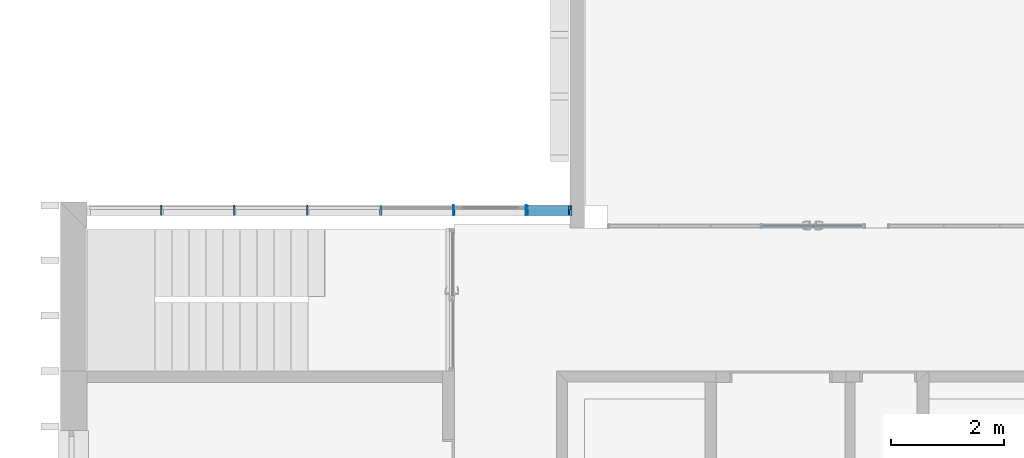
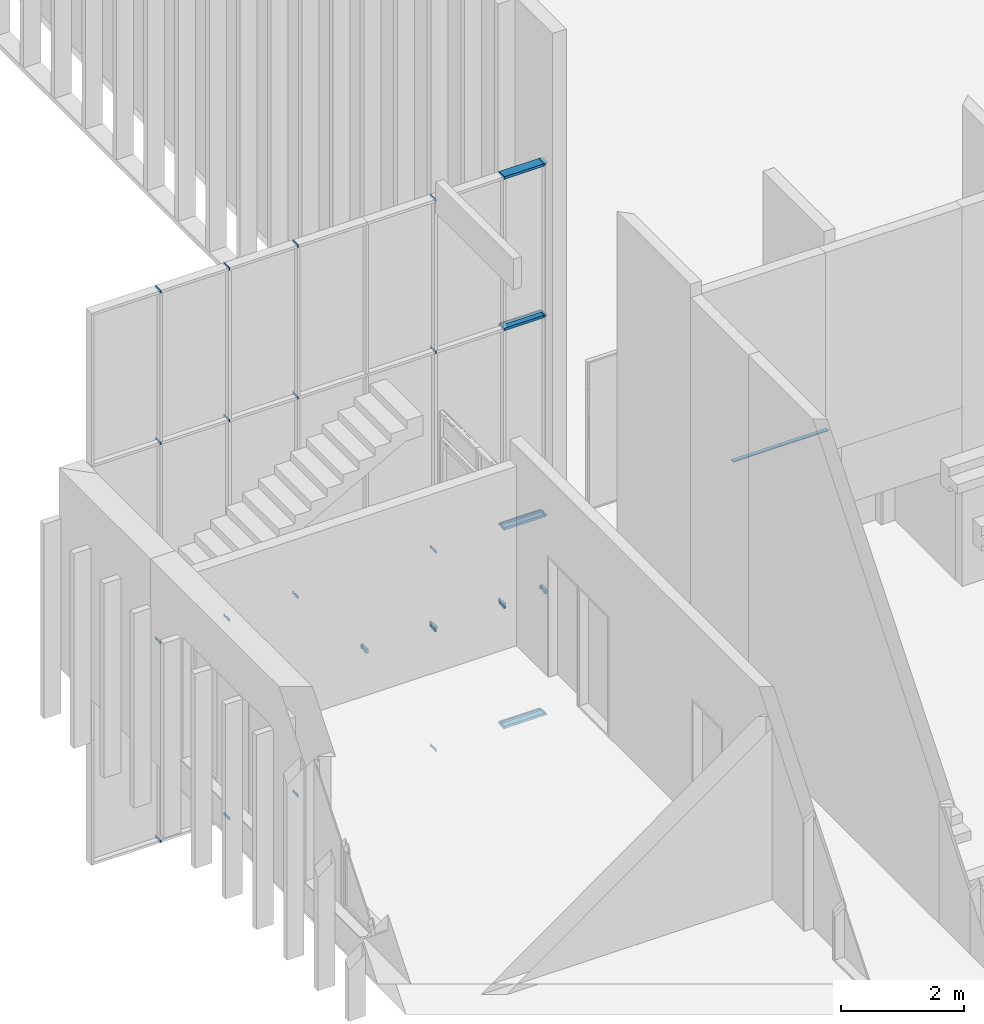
# One storey, part 8 of 62: 39 members, 2 elements without a shape of their own.
"""IFC2X3 building model written with IfcOpenShell, lengths in millimetres."""

from ifc_helpers import new_model, entity, si_unit, converted_unit, derived_unit, money_unit, direction, frame, origin_with_axes, place, context, subcontext, project, spatial, polyline, outline, extrude, clip, halfspace, faceted_brep, source, transform, mapped, material, type_object, element, aggregate, save


model = new_model("IFC2X3")

# Units and contexts
model_context = context("Model", 3, precision=0.01, world=origin_with_axes(), true_north=direction((0.0, 1.0)))
body_context = subcontext(model_context, "Body", "Model", "MODEL_VIEW")
ifc_project = project(units=[si_unit("LENGTHUNIT", "METRE", prefix="MILLI"), si_unit("AREAUNIT", "SQUARE_METRE"), si_unit("VOLUMEUNIT", "CUBIC_METRE"), converted_unit("PLANEANGLEUNIT", "DEGREE", entity("IfcPlaneAngleMeasure", 0.0174532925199), si_unit("PLANEANGLEUNIT", "RADIAN"), dimensions=[0, 0, 0, 0, 0, 0, 0]), si_unit("SOLIDANGLEUNIT", "STERADIAN"), money_unit("EUR"), converted_unit("TIMEUNIT", "Year", entity("IfcTimeMeasure", 31556926.0), si_unit("TIMEUNIT", "SECOND"), dimensions=[0, 0, 1, 0, 0, 0, 0]), si_unit("MASSUNIT", "GRAM", prefix="KILO"), si_unit("THERMODYNAMICTEMPERATUREUNIT", "DEGREE_CELSIUS"), si_unit("LUMINOUSINTENSITYUNIT", "LUMEN"), si_unit("ENERGYUNIT", "JOULE", prefix="MEGA"), derived_unit("THERMALCONDUCTANCEUNIT", [(si_unit("POWERUNIT", "WATT"), 1), (si_unit("LENGTHUNIT", "METRE"), -1), (si_unit("THERMODYNAMICTEMPERATUREUNIT", "KELVIN"), -1)]), derived_unit("SPECIFICHEATCAPACITYUNIT", [(si_unit("ENERGYUNIT", "JOULE"), 1), (si_unit("MASSUNIT", "GRAM", prefix="KILO"), -1), (si_unit("THERMODYNAMICTEMPERATUREUNIT", "KELVIN"), -1)]), derived_unit("MASSDENSITYUNIT", [(si_unit("MASSUNIT", "GRAM", prefix="KILO"), 1), (si_unit("VOLUMEUNIT", "CUBIC_METRE"), -1)])], contexts=[model_context])

# Site, building, storey
site_placement = place(None, origin_with_axes())
site = spatial("IfcSite", under=ifc_project, at=site_placement, Name="Puškini 31, Narva", CompositionType="ELEMENT")
building_placement = place(site_placement, origin_with_axes())
building = spatial("IfcBuilding", under=site, at=building_placement, Name="Narva Riigigümnaasium", CompositionType="ELEMENT")
storey_placement = place(building_placement, frame((0.0, 0.0, 660.0), z_axis=(0.0, 0.0, 1.0), x_axis=(1.0, 0.0, 0.0)))
storey = spatial("IfcBuildingStorey", under=building, at=storey_placement, Name="2.korrus +0.66", CompositionType="ELEMENT", Elevation=660.0)

# Curtain wall, members
curtain_wall_type = type_object("IfcCurtainWallType", Name="Curtain Wall Type", PredefinedType="NOTDEFINED")
curtain_wall_1_placement = place(storey_placement, frame((29287.8078111, 224154.987122, -3960.0), z_axis=(0.0, 0.0, 1.0), x_axis=(1.0, 0.0, 0.0)))
curtain_wall_1 = element("IfcCurtainWall", 1, at=curtain_wall_1_placement, inside=storey, type_object=curtain_wall_type, Name="G-KLF-05")
ifc_material = material(Name="ET-04_Alumiinium")
member_type_1 = type_object("IfcMemberType", Name="Boundary Frame 50 x 176", PredefinedType="MULLION")
shared_shape = source(origin_with_axes(), body_context, "Body", "Brep", [
    faceted_brep([(-10.0, -29.0, 69.2145805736), (-25.0, -29.0, 69.2145805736), (-25.0, -130.0, 69.2145805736), (25.0, -130.0, 69.2145805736), (25.0, -29.0, 69.2145805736), (10.0, -29.0, 69.2145805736), (10.0, 29.0, 69.2145805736), (25.0, 29.0, 69.2145805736), (25.0, 46.0, 69.2145805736), (-25.0, 46.0, 69.2145805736), (-25.0, 29.0, 69.2145805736), (-10.0, 29.0, 69.2145805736), (-10.0, -29.0, 20.0), (-25.0, -29.0, 50.0), (-25.0, -130.0, 50.0), (0.0, -130.0, 0.0), (25.0, -130.0, 50.0000005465), (25.0, -29.0, 50.0000005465), (10.0, -29.0, 20.0000002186), (10.0, 29.0, 20.0000002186), (25.0, 29.0, 50.0000005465), (25.0, 46.0, 50.0000005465), (0.0, 46.0, 0.0), (-25.0, 46.0, 50.0), (-25.0, 29.0, 50.0), (-10.0, 29.0, 20.0)], [[[0, 1, 2, 3, 4, 5, 6, 7, 8, 9, 10, 11]], [[1, 0, 12, 13]], [[1, 13, 14, 2]], [[14, 15, 16, 3, 2]], [[4, 3, 16, 17]], [[4, 17, 18, 5]], [[5, 18, 19, 6]], [[7, 6, 19, 20]], [[20, 21, 8, 7]], [[21, 22, 23, 9, 8]], [[24, 10, 9, 23]], [[11, 10, 24, 25]], [[0, 11, 25, 12]], [[25, 24, 23, 22, 15, 14, 13, 12]], [[21, 20, 19, 18, 17, 16, 15, 22]]]),
])
member_1_placement = place(curtain_wall_1_placement, frame((7692.19233275, 0.0, 7920.0), z_axis=(-1.0, 0.0, 0.0), x_axis=(0.0, 0.0, 1.0)))
member_1 = element("IfcMember", 2, at=member_1_placement, type_object=member_type_1, material=ifc_material, Name="klaasfassaadi raam", ObjectType="MULLION", context=body_context, shape_type="MappedRepresentation", body=[
    mapped(shared_shape, transform((0.0, 0.0, 0.0))),
])
member_2_placement = place(curtain_wall_1_placement, frame((7692.19233275, 0.0, 3960.0), z_axis=(-1.0, 0.0, 0.0), x_axis=(0.0, 0.0, 1.0)))
member_2 = element("IfcMember", 3, at=member_2_placement, type_object=member_type_1, material=ifc_material, Name="klaasfassaadi raam", ObjectType="MULLION", context=body_context, shape_type="MappedRepresentation", body=[
    mapped(shared_shape, transform((0.0, 0.0, 0.0))),
])
member_type_2 = type_object("IfcMemberType", Name="Mullion Frame 50 x 176", PredefinedType="MULLION")
member_3_placement = place(curtain_wall_1_placement, frame((6886.14537475, 0.0, 2400.00000127), z_axis=(1.91553442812e-09, 0.0, 1.0), x_axis=(1.0, 0.0, -1.91553442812e-09)))
member_3 = element("IfcMember", 4, at=member_3_placement, type_object=member_type_2, material=ifc_material, Name="klaasfassaadi raam", ObjectType="MULLION", context=body_context, shape_type="SweptSolid", body=[
    extrude(outline(polyline([(-10.0, -29.0), (-25.0, -29.0), (-25.0, -130.0), (25.0, -130.0), (25.0, -29.0), (10.0, -29.0), (10.0, 29.0), (25.0, 29.0), (25.0, 46.0), (-25.0, 46.0), (-25.0, 29.0), (-10.0, 29.0), (-10.0, -29.0)])), frame((0.0, 0.0, 24.9999999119), z_axis=(0.0, 0.0, 1.0), x_axis=(1.0, 0.0, 1.91553442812e-09)), (0.0, 0.0, 1.0), 54.9999991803),
])
member_4_placement = place(curtain_wall_1_placement, frame((4309.84100197, 0.0, 2400.00236939), z_axis=(0.0, 0.0, 1.0), x_axis=(1.0, 0.0, 0.0)))
member_4 = element("IfcMember", 5, at=member_4_placement, type_object=member_type_2, material=ifc_material, Name="klaasfassaadi raam", ObjectType="MULLION", context=body_context, shape_type="SweptSolid", body=[
    extrude(outline(polyline([(-10.0, -29.0), (-25.0, -29.0), (-25.0, -130.0), (25.0, -130.0), (25.0, -29.0), (10.0, -29.0), (10.0, 29.0), (25.0, 29.0), (25.0, 46.0), (-25.0, 46.0), (-25.0, 29.0), (-10.0, 29.0), (-10.0, -29.0)])), origin_with_axes(), (0.0, 0.0, 1.0), 79.9976306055),
])
member_5_placement = place(curtain_wall_1_placement, frame((5597.9776131, 0.0, 2400.00000127), z_axis=(0.0, 0.0, 1.0), x_axis=(1.0, 0.0, 0.0)))
member_5 = element("IfcMember", 6, at=member_5_placement, type_object=member_type_2, material=ifc_material, Name="klaasfassaadi raam", ObjectType="MULLION", context=body_context, shape_type="SweptSolid", body=[
    extrude(outline(polyline([(-10.0, -29.0), (-25.0, -29.0), (-25.0, -130.0), (25.0, -130.0), (25.0, -29.0), (10.0, -29.0), (10.0, 29.0), (25.0, 29.0), (25.0, 46.0), (-25.0, 46.0), (-25.0, 29.0), (-10.0, 29.0), (-10.0, -29.0)])), frame((0.0, 0.0, 24.9999999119), z_axis=(0.0, 0.0, 1.0), x_axis=(1.0, 0.0, 0.0)), (0.0, 0.0, 1.0), 54.9999991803),
])
member_6_placement = place(curtain_wall_1_placement, frame((7622.97775217, 0.0, 10950.0000373), z_axis=(1.0, 0.0, 0.0), x_axis=(0.0, 0.0, -1.0)))
member_6 = element("IfcMember", 7, at=member_6_placement, type_object=member_type_1, material=ifc_material, Name="klaasfassaadi raam", ObjectType="MULLION", context=body_context, shape_type="Clipping", body=[
    clip(extrude(outline(polyline([(29.0, 35.0), (-29.0, 35.0), (-29.0, 50.0), (-46.0, 50.0), (-46.0, 0.0), (130.0, 0.0), (130.0, 50.0), (29.0, 50.0), (29.0, 35.0)])), frame((0.0, 0.0, 0.0), z_axis=(0.0, 0.0, 1.0), x_axis=(0.0, -1.0, 0.0)), (0.0, 0.0, 1.0), 69.2145143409), halfspace(frame((34.6072571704, 0.0, 34.6072579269), z_axis=(-0.707106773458, 0.0, -0.707106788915), x_axis=(0.0, 1.0, 0.0)), True)),
])
member_7_placement = place(curtain_wall_1_placement, frame((6886.14537815, 0.0, 10950.0000373), z_axis=(1.0, 0.0, 0.0), x_axis=(0.0, 0.0, -1.0)))
member_7 = element("IfcMember", 8, at=member_7_placement, type_object=member_type_1, material=ifc_material, Name="klaasfassaadi raam", ObjectType="MULLION", context=body_context, shape_type="SweptSolid", body=[
    extrude(outline(polyline([(29.0, 35.0), (-29.0, 35.0), (-29.0, 50.0), (-46.0, 50.0), (-46.0, 0.0), (130.0, 0.0), (130.0, 50.0), (29.0, 50.0), (29.0, 35.0)])), frame((0.0, 0.0, 0.0), z_axis=(0.0, 0.0, 1.0), x_axis=(0.0, -1.0, 0.0)), (0.0, 0.0, 1.0), 736.832374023),
])
member_8_placement = place(curtain_wall_1_placement, frame((6872.98587503, 0.0, 10950.0000373), z_axis=(1.0, 0.0, 0.0), x_axis=(0.0, 0.0, -1.0)))
member_8 = element("IfcMember", 9, at=member_8_placement, type_object=member_type_1, material=ifc_material, Name="klaasfassaadi raam", ObjectType="MULLION", context=body_context, shape_type="SweptSolid", body=[
    extrude(outline(polyline([(29.0, 35.0), (-29.0, 35.0), (-29.0, 50.0), (-46.0, 50.0), (-46.0, 0.0), (130.0, 0.0), (130.0, 50.0), (29.0, 50.0), (29.0, 35.0)])), frame((0.0, 0.0, 0.0), z_axis=(0.0, 0.0, 1.0), x_axis=(0.0, -1.0, 0.0)), (0.0, 0.0, 1.0), 13.1595031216),
])
member_9_placement = place(curtain_wall_1_placement, frame((5592.97775217, 0.0, 10950.0000373), z_axis=(1.0, 0.0, 0.0), x_axis=(0.0, 0.0, -1.0)))
member_9 = element("IfcMember", 10, at=member_9_placement, type_object=member_type_1, material=ifc_material, Name="klaasfassaadi raam", ObjectType="MULLION", context=body_context, shape_type="SweptSolid", body=[
    extrude(outline(polyline([(29.0, 35.0), (-29.0, 35.0), (-29.0, 50.0), (-46.0, 50.0), (-46.0, 0.0), (130.0, 0.0), (130.0, 50.0), (29.0, 50.0), (29.0, 35.0)])), frame((0.0, 0.0, 0.0), z_axis=(0.0, 0.0, 1.0), x_axis=(0.0, -1.0, 0.0)), (0.0, 0.0, 1.0), 4.99985342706),
])
member_10_placement = place(curtain_wall_1_placement, frame((3002.68449211, 0.0, 10950.0000373), z_axis=(1.0, 0.0, 0.0), x_axis=(0.0, 0.0, -1.0)))
member_10 = element("IfcMember", 11, at=member_10_placement, type_object=member_type_1, material=ifc_material, Name="klaasfassaadi raam", ObjectType="MULLION", context=body_context, shape_type="SweptSolid", body=[
    extrude(outline(polyline([(29.0, 35.0), (-29.0, 35.0), (-29.0, 50.0), (-46.0, 50.0), (-46.0, 0.0), (130.0, 0.0), (130.0, 50.0), (29.0, 50.0), (29.0, 35.0)])), frame((0.0, 0.0, 0.0), z_axis=(0.0, 0.0, 1.0), x_axis=(0.0, -1.0, 0.0)), (0.0, 0.0, 1.0), 19.004367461),
])
member_11_placement = place(curtain_wall_1_placement, frame((1712.53380065, 0.0, 10950.0000373), z_axis=(1.0, 0.0, 0.0), x_axis=(0.0, 0.0, -1.0)))
member_11 = element("IfcMember", 12, at=member_11_placement, type_object=member_type_1, material=ifc_material, Name="klaasfassaadi raam", ObjectType="MULLION", context=body_context, shape_type="SweptSolid", body=[
    extrude(outline(polyline([(29.0, 35.0), (-29.0, 35.0), (-29.0, 50.0), (-46.0, 50.0), (-46.0, 0.0), (130.0, 0.0), (130.0, 50.0), (29.0, 50.0), (29.0, 35.0)])), frame((0.0, 0.0, 0.0), z_axis=(0.0, 0.0, 1.0), x_axis=(0.0, -1.0, 0.0)), (0.0, 0.0, 1.0), 21.0028431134),
])
member_12_placement = place(curtain_wall_1_placement, frame((422.38310919, 0.0, 10950.0000373), z_axis=(1.0, 0.0, 0.0), x_axis=(0.0, 0.0, -1.0)))
member_12 = element("IfcMember", 13, at=member_12_placement, type_object=member_type_1, material=ifc_material, Name="klaasfassaadi raam", ObjectType="MULLION", context=body_context, shape_type="SweptSolid", body=[
    extrude(outline(polyline([(29.0, 35.0), (-29.0, 35.0), (-29.0, 50.0), (-46.0, 50.0), (-46.0, 0.0), (130.0, 0.0), (130.0, 50.0), (29.0, 50.0), (29.0, 35.0)])), frame((0.0, 0.0, 0.0), z_axis=(0.0, 0.0, 1.0), x_axis=(0.0, -1.0, 0.0)), (0.0, 0.0, 1.0), 23.0014167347),
])
member_13_placement = place(curtain_wall_1_placement, frame((5597.99317112, 0.0, 0.0), z_axis=(-1.0, 0.0, 0.0), x_axis=(0.0, 0.0, 1.0)))
member_13 = element("IfcMember", 14, at=member_13_placement, type_object=member_type_1, material=ifc_material, Name="klaasfassaadi raam", ObjectType="MULLION", context=body_context, shape_type="SweptSolid", body=[
    extrude(outline(polyline([(-29.0, -35.0), (29.0, -35.0), (29.0, -50.0), (46.0, -50.0), (46.0, 0.0), (-130.0, 0.0), (-130.0, -50.0), (-29.0, -50.0), (-29.0, -35.0)])), frame((0.0, 0.0, 0.0), z_axis=(0.0, 0.0, 1.0), x_axis=(0.0, 1.0, 0.0)), (0.0, 0.0, 1.0), 5.01541894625),
])
member_14_placement = place(curtain_wall_1_placement, frame((3021.68886067, 0.0, 0.0), z_axis=(-1.0, 0.0, 0.0), x_axis=(0.0, 0.0, 1.0)))
member_14 = element("IfcMember", 15, at=member_14_placement, type_object=member_type_1, material=ifc_material, Name="klaasfassaadi raam", ObjectType="MULLION", context=body_context, shape_type="SweptSolid", body=[
    extrude(outline(polyline([(-29.0, -35.0), (29.0, -35.0), (29.0, -50.0), (46.0, -50.0), (46.0, 0.0), (-130.0, 0.0), (-130.0, -50.0), (-29.0, -50.0), (-29.0, -35.0)])), frame((0.0, 0.0, 0.0), z_axis=(0.0, 0.0, 1.0), x_axis=(0.0, 1.0, 0.0)), (0.0, 0.0, 1.0), 19.004367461),
])
member_15_placement = place(curtain_wall_1_placement, frame((1733.53668043, 0.0, 0.0), z_axis=(-1.0, 0.0, 0.0), x_axis=(0.0, 0.0, 1.0)))
member_15 = element("IfcMember", 16, at=member_15_placement, type_object=member_type_1, material=ifc_material, Name="klaasfassaadi raam", ObjectType="MULLION", context=body_context, shape_type="SweptSolid", body=[
    extrude(outline(polyline([(-29.0, -35.0), (29.0, -35.0), (29.0, -50.0), (46.0, -50.0), (46.0, 0.0), (-130.0, 0.0), (-130.0, -50.0), (-29.0, -50.0), (-29.0, -35.0)])), frame((0.0, 0.0, 0.0), z_axis=(0.0, 0.0, 1.0), x_axis=(0.0, 1.0, 0.0)), (0.0, 0.0, 1.0), 21.0028431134),
])
member_16_placement = place(curtain_wall_1_placement, frame((445.384525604, 0.0, 0.0), z_axis=(-1.0, 0.0, 0.0), x_axis=(0.0, 0.0, 1.0)))
member_16 = element("IfcMember", 17, at=member_16_placement, type_object=member_type_1, material=ifc_material, Name="klaasfassaadi raam", ObjectType="MULLION", context=body_context, shape_type="SweptSolid", body=[
    extrude(outline(polyline([(-29.0, -35.0), (29.0, -35.0), (29.0, -50.0), (46.0, -50.0), (46.0, 0.0), (-130.0, 0.0), (-130.0, -50.0), (-29.0, -50.0), (-29.0, -35.0)])), frame((0.0, 0.0, 0.0), z_axis=(0.0, 0.0, 1.0), x_axis=(0.0, 1.0, 0.0)), (0.0, 0.0, 1.0), 23.0014167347),
])
member_17_placement = place(curtain_wall_1_placement, frame((7692.19233275, 0.0, 0.0), z_axis=(-1.0, 0.0, 0.0), x_axis=(0.0, 0.0, 1.0)))
member_17 = element("IfcMember", 18, at=member_17_placement, type_object=member_type_1, material=ifc_material, Name="klaasfassaadi raam", ObjectType="MULLION", context=body_context, shape_type="Clipping", body=[
    clip(extrude(outline(polyline([(-29.0, -35.0), (29.0, -35.0), (29.0, -50.0), (46.0, -50.0), (46.0, 0.0), (-130.0, 0.0), (-130.0, -50.0), (-29.0, -50.0), (-29.0, -35.0)])), frame((0.0, 0.0, 0.0), z_axis=(0.0, 0.0, 1.0), x_axis=(0.0, 1.0, 0.0)), (0.0, 0.0, 1.0), 69.2145805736), halfspace(frame((0.0, 0.0, 0.0), z_axis=(-0.707106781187, 0.0, 0.707106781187), x_axis=(0.0, -1.0, 0.0)), True)),
])
member_18_placement = place(curtain_wall_1_placement, frame((5597.9776056, 0.0, 7920.0), z_axis=(-1.0, 0.0, 0.0), x_axis=(0.0, 0.0, 1.0)))
member_18 = element("IfcMember", 19, at=member_18_placement, type_object=member_type_1, material=ifc_material, Name="klaasfassaadi raam", ObjectType="MULLION", context=body_context, shape_type="SweptSolid", body=[
    extrude(outline(polyline([(-29.0, 10.0), (-29.0, 25.0), (-130.0, 25.0), (-130.0, -25.0), (-29.0, -25.0), (-29.0, -10.0), (29.0, -10.0), (29.0, -25.0), (46.0, -25.0), (46.0, 25.0), (29.0, 25.0), (29.0, 10.0), (-29.0, 10.0)])), frame((0.0, 0.0, 0.0), z_axis=(0.0, 0.0, 1.0), x_axis=(0.0, 1.0, 0.0)), (0.0, 0.0, 1.0), 4.99985342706),
])
member_19_placement = place(curtain_wall_1_placement, frame((5597.97761203, 0.0, 3960.0), z_axis=(-1.0, 0.0, 0.0), x_axis=(0.0, 0.0, 1.0)))
member_19 = element("IfcMember", 20, at=member_19_placement, type_object=member_type_1, material=ifc_material, Name="klaasfassaadi raam", ObjectType="MULLION", context=body_context, shape_type="SweptSolid", body=[
    extrude(outline(polyline([(-29.0, 10.0), (-29.0, 25.0), (-130.0, 25.0), (-130.0, -25.0), (-29.0, -25.0), (-29.0, -10.0), (29.0, -10.0), (29.0, -25.0), (46.0, -25.0), (46.0, 25.0), (29.0, 25.0), (29.0, 10.0), (-29.0, 10.0)])), frame((0.0, 0.0, 0.0), z_axis=(0.0, 0.0, 1.0), x_axis=(0.0, 1.0, 0.0)), (0.0, 0.0, 1.0), 4.99985342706),
])
member_20_placement = place(curtain_wall_1_placement, frame((3021.68886067, 0.0, 3960.0), z_axis=(-1.0, 0.0, 0.0), x_axis=(0.0, 0.0, 1.0)))
member_20 = element("IfcMember", 21, at=member_20_placement, type_object=member_type_1, material=ifc_material, Name="klaasfassaadi raam", ObjectType="MULLION", context=body_context, shape_type="SweptSolid", body=[
    extrude(outline(polyline([(-29.0, 10.0), (-29.0, 25.0), (-130.0, 25.0), (-130.0, -25.0), (-29.0, -25.0), (-29.0, -10.0), (29.0, -10.0), (29.0, -25.0), (46.0, -25.0), (46.0, 25.0), (29.0, 25.0), (29.0, 10.0), (-29.0, 10.0)])), frame((0.0, 0.0, 0.0), z_axis=(0.0, 0.0, 1.0), x_axis=(0.0, 1.0, 0.0)), (0.0, 0.0, 1.0), 19.0043685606),
])
member_21_placement = place(curtain_wall_1_placement, frame((1733.53668043, 0.0, 3960.0), z_axis=(-1.0, 0.0, 0.0), x_axis=(0.0, 0.0, 1.0)))
member_21 = element("IfcMember", 22, at=member_21_placement, type_object=member_type_1, material=ifc_material, Name="klaasfassaadi raam", ObjectType="MULLION", context=body_context, shape_type="SweptSolid", body=[
    extrude(outline(polyline([(-29.0, 10.0), (-29.0, 25.0), (-130.0, 25.0), (-130.0, -25.0), (-29.0, -25.0), (-29.0, -10.0), (29.0, -10.0), (29.0, -25.0), (46.0, -25.0), (46.0, 25.0), (29.0, 25.0), (29.0, 10.0), (-29.0, 10.0)])), frame((0.0, 0.0, 0.0), z_axis=(0.0, 0.0, 1.0), x_axis=(0.0, 1.0, 0.0)), (0.0, 0.0, 1.0), 21.0028797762),
])
member_22_placement = place(curtain_wall_1_placement, frame((445.384525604, 0.0, 3960.0), z_axis=(-1.0, 0.0, 0.0), x_axis=(0.0, 0.0, 1.0)))
member_22 = element("IfcMember", 23, at=member_22_placement, type_object=member_type_1, material=ifc_material, Name="klaasfassaadi raam", ObjectType="MULLION", context=body_context, shape_type="SweptSolid", body=[
    extrude(outline(polyline([(-29.0, 10.0), (-29.0, 25.0), (-130.0, 25.0), (-130.0, -25.0), (-29.0, -25.0), (-29.0, -10.0), (29.0, -10.0), (29.0, -25.0), (46.0, -25.0), (46.0, 25.0), (29.0, 25.0), (29.0, 10.0), (-29.0, 10.0)])), frame((0.0, 0.0, 0.0), z_axis=(0.0, 0.0, 1.0), x_axis=(0.0, 1.0, 0.0)), (0.0, 0.0, 1.0), 23.0014164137),
])
member_23_placement = place(curtain_wall_1_placement, frame((445.384489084, 0.0, 7920.0), z_axis=(-1.0, 0.0, 0.0), x_axis=(0.0, 0.0, 1.0)))
member_23 = element("IfcMember", 24, at=member_23_placement, type_object=member_type_1, material=ifc_material, Name="klaasfassaadi raam", ObjectType="MULLION", context=body_context, shape_type="SweptSolid", body=[
    extrude(outline(polyline([(-29.0, 10.0), (-29.0, 25.0), (-130.0, 25.0), (-130.0, -25.0), (-29.0, -25.0), (-29.0, -10.0), (29.0, -10.0), (29.0, -25.0), (46.0, -25.0), (46.0, 25.0), (29.0, 25.0), (29.0, 10.0), (-29.0, 10.0)])), frame((0.0, 0.0, 0.0), z_axis=(0.0, 0.0, 1.0), x_axis=(0.0, 1.0, 0.0)), (0.0, 0.0, 1.0), 23.0014164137),
])
member_24_placement = place(curtain_wall_1_placement, frame((1733.53667543, 0.0, 7920.0), z_axis=(-1.0, 0.0, 0.0), x_axis=(0.0, 0.0, 1.0)))
member_24 = element("IfcMember", 25, at=member_24_placement, type_object=member_type_1, material=ifc_material, Name="klaasfassaadi raam", ObjectType="MULLION", context=body_context, shape_type="SweptSolid", body=[
    extrude(outline(polyline([(-29.0, 10.0), (-29.0, 25.0), (-130.0, 25.0), (-130.0, -25.0), (-29.0, -25.0), (-29.0, -10.0), (29.0, -10.0), (29.0, -25.0), (46.0, -25.0), (46.0, 25.0), (29.0, 25.0), (29.0, 10.0), (-29.0, 10.0)])), frame((0.0, 0.0, 0.0), z_axis=(0.0, 0.0, 1.0), x_axis=(0.0, 1.0, 0.0)), (0.0, 0.0, 1.0), 21.0028797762),
])
member_25_placement = place(curtain_wall_1_placement, frame((3021.68885957, 0.0, 7920.0), z_axis=(-1.0, 0.0, 0.0), x_axis=(0.0, 0.0, 1.0)))
member_25 = element("IfcMember", 26, at=member_25_placement, type_object=member_type_1, material=ifc_material, Name="klaasfassaadi raam", ObjectType="MULLION", context=body_context, shape_type="SweptSolid", body=[
    extrude(outline(polyline([(-29.0, 10.0), (-29.0, 25.0), (-130.0, 25.0), (-130.0, -25.0), (-29.0, -25.0), (-29.0, -10.0), (29.0, -10.0), (29.0, -25.0), (46.0, -25.0), (46.0, 25.0), (29.0, 25.0), (29.0, 10.0), (-29.0, 10.0)])), frame((0.0, 0.0, 0.0), z_axis=(0.0, 0.0, 1.0), x_axis=(0.0, 1.0, 0.0)), (0.0, 0.0, 1.0), 19.0043685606),
])
member_26_placement = place(curtain_wall_1_placement, frame((6886.14537015, 0.0, 0.0), z_axis=(-1.0, 0.0, 0.0), x_axis=(0.0, 0.0, 1.0)))
member_26 = element("IfcMember", 27, at=member_26_placement, type_object=member_type_1, material=ifc_material, Name="klaasfassaadi raam", ObjectType="MULLION", context=body_context, shape_type="SweptSolid", body=[
    extrude(outline(polyline([(-29.0, -35.0), (29.0, -35.0), (29.0, -50.0), (46.0, -50.0), (46.0, 0.0), (-130.0, 0.0), (-130.0, -50.0), (-29.0, -50.0), (-29.0, -35.0)])), frame((0.0, 0.0, 0.0), z_axis=(0.0, 0.0, 1.0), x_axis=(0.0, 1.0, 0.0)), (0.0, 0.0, 1.0), 13.1595031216),
])
member_27_placement = place(curtain_wall_1_placement, frame((6886.14537815, 0.0, 7920.0), z_axis=(-1.0, 0.0, 0.0), x_axis=(0.0, 0.0, 1.0)))
member_27 = element("IfcMember", 28, at=member_27_placement, type_object=member_type_1, material=ifc_material, Name="klaasfassaadi raam", ObjectType="MULLION", context=body_context, shape_type="SweptSolid", body=[
    extrude(outline(polyline([(-29.0, 10.0), (-29.0, 25.0), (-130.0, 25.0), (-130.0, -25.0), (-29.0, -25.0), (-29.0, -10.0), (29.0, -10.0), (29.0, -25.0), (46.0, -25.0), (46.0, 25.0), (29.0, 25.0), (29.0, 10.0), (-29.0, 10.0)])), frame((0.0, 0.0, 0.0), z_axis=(0.0, 0.0, 1.0), x_axis=(0.0, 1.0, 0.0)), (0.0, 0.0, 1.0), 13.1595031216),
])
member_28_placement = place(curtain_wall_1_placement, frame((5597.9776131, 0.0, 2400.00000127), z_axis=(-1.0, 0.0, 0.0), x_axis=(0.0, 0.0, 1.0)))
member_28 = element("IfcMember", 29, at=member_28_placement, type_object=member_type_1, material=ifc_material, Name="klaasfassaadi raam", ObjectType="MULLION", context=body_context, shape_type="SweptSolid", body=[
    extrude(outline(polyline([(-29.0, 10.0), (-29.0, 25.0), (-130.0, 25.0), (-130.0, -25.0), (-29.0, -25.0), (-29.0, -10.0), (29.0, -10.0), (29.0, -25.0), (46.0, -25.0), (46.0, 25.0), (29.0, 25.0), (29.0, 10.0), (-29.0, 10.0)])), frame((0.0, 0.0, 0.0), z_axis=(0.0, 0.0, 1.0), x_axis=(0.0, 1.0, 0.0)), (0.0, 0.0, 1.0), 4.99985342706),
])
member_29_placement = place(curtain_wall_1_placement, frame((7622.97775217, 0.0, 7920.0), z_axis=(-1.0, 0.0, 0.0), x_axis=(0.0, 0.0, 1.0)))
member_29 = element("IfcMember", 30, at=member_29_placement, type_object=member_type_1, material=ifc_material, Name="klaasfassaadi raam", ObjectType="MULLION", context=body_context, shape_type="SweptSolid", body=[
    extrude(outline(polyline([(-29.0, 10.0), (-29.0, 25.0), (-130.0, 25.0), (-130.0, -25.0), (-29.0, -25.0), (-29.0, -10.0), (29.0, -10.0), (29.0, -25.0), (46.0, -25.0), (46.0, 25.0), (29.0, 25.0), (29.0, 10.0), (-29.0, 10.0)])), frame((0.0, 0.0, 0.0), z_axis=(0.0, 0.0, 1.0), x_axis=(0.0, 1.0, 0.0)), (0.0, 0.0, 1.0), 736.832374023),
])
member_30_placement = place(curtain_wall_1_placement, frame((6886.14535642, 0.0, 3960.0), z_axis=(-1.0, 0.0, 0.0), x_axis=(0.0, 0.0, 1.0)))
member_30 = element("IfcMember", 31, at=member_30_placement, type_object=member_type_1, material=ifc_material, Name="klaasfassaadi raam", ObjectType="MULLION", context=body_context, shape_type="SweptSolid", body=[
    extrude(outline(polyline([(-29.0, 10.0), (-29.0, 25.0), (-130.0, 25.0), (-130.0, -25.0), (-29.0, -25.0), (-29.0, -10.0), (29.0, -10.0), (29.0, -25.0), (46.0, -25.0), (46.0, 25.0), (29.0, 25.0), (29.0, 10.0), (-29.0, 10.0)])), frame((0.0, 0.0, 0.0), z_axis=(0.0, 0.0, 1.0), x_axis=(0.0, 1.0, 0.0)), (0.0, 0.0, 1.0), 13.1595031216),
])
member_31_placement = place(curtain_wall_1_placement, frame((7622.97775217, 0.0, 3960.0), z_axis=(-1.0, 0.0, 0.0), x_axis=(0.0, 0.0, 1.0)))
member_31 = element("IfcMember", 32, at=member_31_placement, type_object=member_type_1, material=ifc_material, Name="klaasfassaadi raam", ObjectType="MULLION", context=body_context, shape_type="SweptSolid", body=[
    extrude(outline(polyline([(-29.0, 10.0), (-29.0, 25.0), (-130.0, 25.0), (-130.0, -25.0), (-29.0, -25.0), (-29.0, -10.0), (29.0, -10.0), (29.0, -25.0), (46.0, -25.0), (46.0, 25.0), (29.0, 25.0), (29.0, 10.0), (-29.0, 10.0)])), frame((0.0, 0.0, 0.0), z_axis=(0.0, 0.0, 1.0), x_axis=(0.0, 1.0, 0.0)), (0.0, 0.0, 1.0), 736.832374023),
])
member_32_placement = place(curtain_wall_1_placement, frame((7622.97775217, 0.0, 0.0), z_axis=(-1.0, 0.0, 0.0), x_axis=(0.0, 0.0, 1.0)))
member_32 = element("IfcMember", 33, at=member_32_placement, type_object=member_type_1, material=ifc_material, Name="klaasfassaadi raam", ObjectType="MULLION", context=body_context, shape_type="SweptSolid", body=[
    extrude(outline(polyline([(-29.0, -35.0), (29.0, -35.0), (29.0, -50.0), (46.0, -50.0), (46.0, 0.0), (-130.0, 0.0), (-130.0, -50.0), (-29.0, -50.0), (-29.0, -35.0)])), frame((0.0, 0.0, 0.0), z_axis=(0.0, 0.0, 1.0), x_axis=(0.0, 1.0, 0.0)), (0.0, 0.0, 1.0), 736.832374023),
])
member_33_placement = place(curtain_wall_1_placement, frame((6886.14537475, 0.0, 2400.00000127), z_axis=(-1.0, 0.0, 0.0), x_axis=(0.0, 0.0, 1.0)))
member_33 = element("IfcMember", 34, at=member_33_placement, type_object=member_type_1, material=ifc_material, Name="klaasfassaadi raam", ObjectType="MULLION", context=body_context, shape_type="SweptSolid", body=[
    extrude(outline(polyline([(-29.0, 10.0), (-29.0, 25.0), (-130.0, 25.0), (-130.0, -25.0), (-29.0, -25.0), (-29.0, -10.0), (29.0, -10.0), (29.0, -25.0), (46.0, -25.0), (46.0, 25.0), (29.0, 25.0), (29.0, 10.0), (-29.0, 10.0)])), frame((0.0, 0.0, 0.0), z_axis=(0.0, 0.0, 1.0), x_axis=(0.0, 1.0, 0.0)), (0.0, 0.0, 1.0), 13.1595031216),
])
member_34_placement = place(curtain_wall_1_placement, frame((6911.14537093, 0.0, 2400.00000127), z_axis=(-1.0, 0.0, 0.0), x_axis=(0.0, 0.0, 1.0)))
member_34 = element("IfcMember", 35, at=member_34_placement, type_object=member_type_1, material=ifc_material, Name="klaasfassaadi raam", ObjectType="MULLION", context=body_context, shape_type="SweptSolid", body=[
    extrude(outline(polyline([(-29.0, 10.0), (-29.0, 25.0), (-130.0, 25.0), (-130.0, -25.0), (-29.0, -25.0), (-29.0, -10.0), (29.0, -10.0), (29.0, -25.0), (46.0, -25.0), (46.0, 25.0), (29.0, 25.0), (29.0, 10.0), (-29.0, 10.0)])), frame((0.0, 0.0, 0.0), z_axis=(0.0, 0.0, 1.0), x_axis=(0.0, 1.0, 0.0)), (0.0, 0.0, 1.0), 24.9999961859),
])
member_35_placement = place(curtain_wall_1_placement, frame((5592.97775217, 0.0, 2400.00000127), z_axis=(-1.0, 0.0, 6.16277924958e-07), x_axis=(6.16277924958e-07, 0.0, 1.0)))
member_35 = element("IfcMember", 36, at=member_35_placement, type_object=member_type_1, material=ifc_material, Name="klaasfassaadi raam", ObjectType="MULLION", context=body_context, shape_type="SweptSolid", body=[
    extrude(outline(polyline([(-29.0, 10.0), (-29.0, 25.0), (-130.0, 25.0), (-130.0, -25.0), (-29.0, -25.0), (-29.0, -10.0), (29.0, -10.0), (29.0, -25.0), (46.0, -25.0), (46.0, 25.0), (29.0, 25.0), (29.0, 10.0), (-29.0, 10.0)])), frame((0.0, 0.0, -1.54069539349e-05), z_axis=(0.0, 0.0, 1.0), x_axis=(0.0, 1.0, 0.0)), (0.0, 0.0, 1.0), 20.0001636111),
])
member_36_placement = place(curtain_wall_1_placement, frame((5597.99317112, 0.0, 2400.00000127), z_axis=(-1.0, 0.0, 0.0), x_axis=(0.0, 0.0, 1.0)))
member_36 = element("IfcMember", 37, at=member_36_placement, type_object=member_type_1, material=ifc_material, Name="klaasfassaadi raam", ObjectType="MULLION", context=body_context, shape_type="SweptSolid", body=[
    extrude(outline(polyline([(-29.0, 10.0), (-29.0, 25.0), (-130.0, 25.0), (-130.0, -25.0), (-29.0, -25.0), (-29.0, -10.0), (29.0, -10.0), (29.0, -25.0), (46.0, -25.0), (46.0, 25.0), (29.0, 25.0), (29.0, 10.0), (-29.0, 10.0)])), frame((0.0, 0.0, 0.0), z_axis=(0.0, 0.0, 1.0), x_axis=(0.0, 1.0, 0.0)), (0.0, 0.0, 1.0), 0.0155580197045),
])
member_37_placement = place(curtain_wall_1_placement, frame((7692.19233275, 0.0, 2480.0), z_axis=(0.0, 0.0, -1.0), x_axis=(-1.0, 0.0, 0.0)))
member_37 = element("IfcMember", 38, at=member_37_placement, type_object=member_type_1, material=ifc_material, Name="klaasfassaadi raam", ObjectType="MULLION", context=body_context, shape_type="SweptSolid", body=[
    extrude(outline(polyline([(-35.0, 29.0), (-35.0, -29.0), (-50.0, -29.0), (-50.0, -46.0), (0.0, -46.0), (0.0, 130.0), (-50.0, 130.0), (-50.0, 29.0), (-35.0, 29.0)])), frame((0.0, 0.0, 0.0), z_axis=(0.0, 0.0, 1.0), x_axis=(-1.0, 0.0, 0.0)), (0.0, 0.0, 1.0), 79.9999987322),
])
aggregate(curtain_wall_1, [member_6, member_7, member_8, member_9, member_10, member_11, member_12, member_13, member_14, member_15, member_16, member_17, member_1, member_18, member_2, member_19, member_20, member_21, member_22, member_23, member_24, member_25, member_26, member_27, member_28, member_29, member_30, member_31, member_32, member_3, member_4, member_33, member_34, member_35, member_5, member_36, member_37])

curtain_wall_2_placement = place(storey_placement, frame((41241.6, 223837.000007, -1.99739158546e-06), z_axis=(0.0, 0.0, 1.0), x_axis=(1.0, 0.0, 0.0)))
curtain_wall_2 = element("IfcCurtainWall", 39, at=curtain_wall_2_placement, inside=storey, type_object=curtain_wall_type, Name="G-SKLF-53")
member_type_3 = type_object("IfcMemberType", Name="20 x 74", PredefinedType="MULLION")
member_38_placement = place(curtain_wall_2_placement, frame((-910.4, 0.0, 0.0), z_axis=(1.0, 0.0, 0.0), x_axis=(0.0, 0.0, 1.0)))
member_38 = element("IfcMember", 40, at=member_38_placement, type_object=member_type_3, material=ifc_material, Name="G-SKLF-84-raam", ObjectType="MULLION", context=body_context, shape_type="SweptSolid", body=[
    extrude(outline(polyline([(37.0, -20.0), (37.0, 0.0), (-37.0, 0.0), (-37.0, -20.0), (37.0, -20.0)])), frame((0.0, 0.0, 0.0), z_axis=(0.0, 0.0, 1.0), x_axis=(0.0, 1.0, 0.0)), (0.0, 0.0, 1.0), 910.4),
])
member_39_placement = place(curtain_wall_2_placement, frame((0.0, 0.0, 0.0), z_axis=(1.0, 0.0, 0.0), x_axis=(0.0, 0.0, 1.0)))
member_39 = element("IfcMember", 41, at=member_39_placement, type_object=member_type_3, material=ifc_material, Name="G-SKLF-85-raam", ObjectType="MULLION", context=body_context, shape_type="SweptSolid", body=[
    extrude(outline(polyline([(37.0, -20.0), (37.0, 0.0), (-37.0, 0.0), (-37.0, -20.0), (37.0, -20.0)])), frame((0.0, 0.0, 0.0), z_axis=(0.0, 0.0, 1.0), x_axis=(0.0, 1.0, 0.0)), (0.0, 0.0, 1.0), 880.399980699),
])
aggregate(curtain_wall_2, [member_38, member_39])

save(model, "model.ifc")
